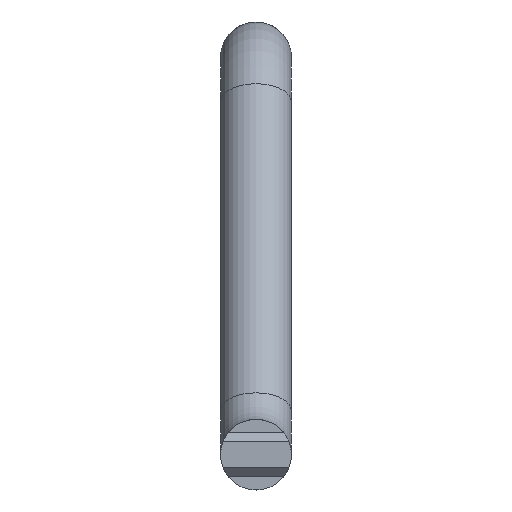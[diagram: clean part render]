
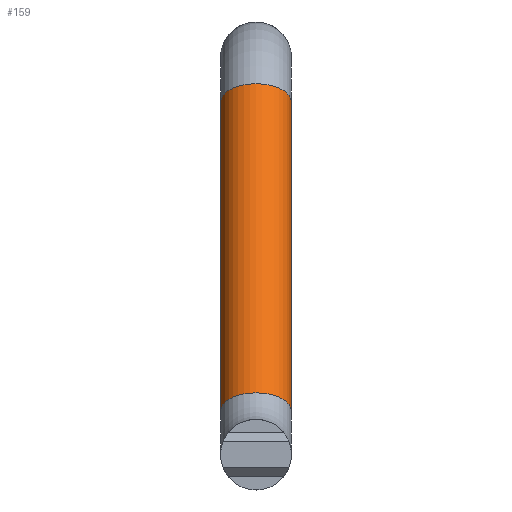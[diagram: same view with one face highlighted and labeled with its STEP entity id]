
A CAD part, left-side view. The second image highlights one B-rep face of the part: STEP entity #159.
In plain terms, the highlighted cylindrical face has radius 4 mm (diameter 8 mm), a partial arc.
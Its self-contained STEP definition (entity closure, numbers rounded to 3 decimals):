
#133=VECTOR('Line Direction',#132,1.) ;
#138=VECTOR('Line Direction',#137,1.) ;
#101=DIRECTION('Axis2P3D Direction',(0.5,-0.,0.866)) ;
#118=DIRECTION('Axis2P3D Direction',(-0.5,-0.,-0.866)) ;
#119=DIRECTION('Axis2P3D XDirection',(0.,-1.,0.)) ;
#132=DIRECTION('Vector Direction',(-0.5,0.,-0.866)) ;
#137=DIRECTION('Vector Direction',(-0.5,0.,-0.866)) ;
#149=DIRECTION('Axis2P3D Direction',(-0.5,-0.,-0.866)) ;
#69=CARTESIAN_POINT('Vertex',(936.887,-466.,118.)) ;
#78=CARTESIAN_POINT('Vertex',(936.887,-474.,118.)) ;
#100=CARTESIAN_POINT('Axis2P3D Location',(936.887,-470.,118.)) ;
#117=CARTESIAN_POINT('Axis2P3D Location',(946.99,-470.,135.5)) ;
#126=CARTESIAN_POINT('Vertex',(957.094,-466.,153.)) ;
#128=CARTESIAN_POINT('Vertex',(957.094,-474.,153.)) ;
#131=CARTESIAN_POINT('Line Origine',(946.99,-474.,135.5)) ;
#136=CARTESIAN_POINT('Line Origine',(946.99,-466.,135.5)) ;
#148=CARTESIAN_POINT('Axis2P3D Location',(957.094,-470.,153.)) ;
#102=AXIS2_PLACEMENT_3D('Circle Axis2P3D',#100,#101,$) ;
#120=AXIS2_PLACEMENT_3D('Cylinder Axis2P3D',#117,#118,#119) ;
#150=AXIS2_PLACEMENT_3D('Circle Axis2P3D',#148,#149,$) ;
#104=EDGE_CURVE('',#79,#70,#103,.F.) ;
#135=EDGE_CURVE('',#79,#129,#134,.F.) ;
#140=EDGE_CURVE('',#70,#127,#139,.F.) ;
#152=EDGE_CURVE('',#129,#127,#151,.T.) ;
#154=ORIENTED_EDGE('',*,*,#152,.T.) ;
#155=ORIENTED_EDGE('',*,*,#140,.F.) ;
#156=ORIENTED_EDGE('',*,*,#104,.F.) ;
#157=ORIENTED_EDGE('',*,*,#135,.T.) ;
#134=LINE('Line',#131,#133) ;
#139=LINE('Line',#136,#138) ;
#159=ADVANCED_FACE('\X2\51E04F554F53\X0\.6',(#158),#121,.T.) ;
#103=CIRCLE('generated circle',#102,4.) ;
#151=CIRCLE('generated circle',#150,4.) ;
#121=CYLINDRICAL_SURFACE('generated cylinder',#120,4.) ;
#70=VERTEX_POINT('',#69) ;
#79=VERTEX_POINT('',#78) ;
#127=VERTEX_POINT('',#126) ;
#129=VERTEX_POINT('',#128) ;
#153=EDGE_LOOP('',(#154,#155,#156,#157)) ;
#158=FACE_OUTER_BOUND('',#153,.T.) ;
